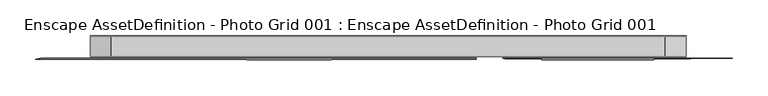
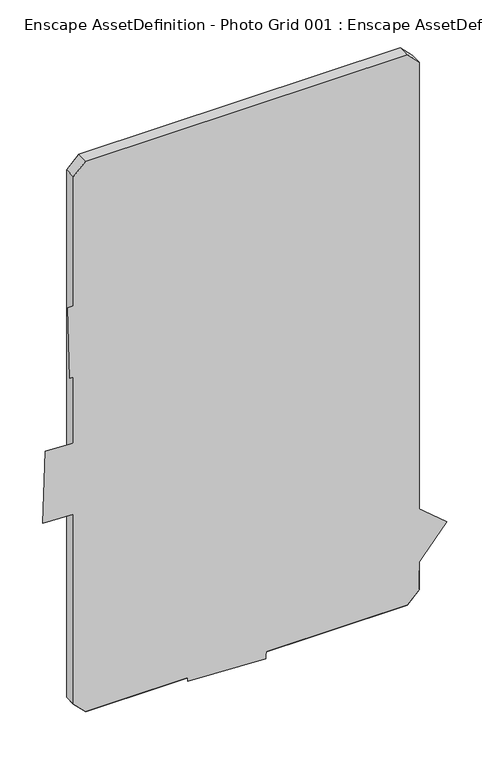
"""IFC4 building model written with IfcOpenShell, lengths in millimetres: geographic element geometry, Enscape AssetDefinition - Photo Grid 001 : Enscape AssetDefinition - Photo Grid 001."""

from ifc_helpers import new_model, si_unit, origin, place, context, project, spatial, triangles, source, transform, mapped, element, save


def enscape_assetdefinition_photo_grid_001_enscape_fef57153(model_context):
    return source(origin(), model_context, "Body", "Tessellation", [
        triangles([(483.1650939, -31.0606223, -515.9774443), (224.4908576, -31.9376695, -532.0733731), (350.6342299, -31.0606223, 522.7969045), (166.6820679, -31.9376695, 340.2241822), (-76.1468555, -31.0606223, 171.2104979), (-192.6188205, -32.6452753, -153.6743045), (373.8181346, -33.2526464, -275.8106903), (218.9135636, -31.0606223, 172.7629286), (126.98341, -31.0606223, 343.3708288), (-66.2845351, -31.9376695, 170.6890363), (-139.3993037, -31.0606223, 519.5858723), (-329.2986863, -31.9376695, 343.2073577), (-238.1178965, -31.0606223, 348.4982775), (-421.1751277, -31.9376695, 165.029389), (-292.3922726, -31.0606223, -8.1631089), (-486.5026445, -31.9376695, -179.8974313), (57.3780293, -31.0606223, -532.5064862), (-138.1487714, -31.9364772, -702.6252085), (125.8247689, -31.0606223, -177.6565071), (-60.5139162, -31.9364772, -357.7949847), (-165.3563494, -31.0606223, -355.0349788), (-359.4667577, -31.9364772, -526.7704628), (-352.4670759, -31.0606223, -347.7214717), (-172.356013, -31.9364772, -534.0840062), (126.7375947, -31.9364772, -356.8403918), (-61.4267648, -31.0606223, -178.6111), (48.895126, -31.9364772, -711.4910917), (-129.664669, -31.0606223, -523.6405666), (-299.3919362, -31.9376695, -187.2121556), (-479.5029991, -31.0606223, -0.8484096), (-233.9725282, -31.9376695, 169.3609378), (-425.3205142, -31.0606223, 344.1667468), (-142.0662467, -31.9376695, 340.4198825), (-326.6317343, -31.0606223, 522.3721484), (120.8596014, -31.9376695, 164.2895722), (-60.1607129, -31.0606223, 349.7690938), (218.0913936, -33.2526464, -275.3978158), (374.6402501, -31.0606223, 172.3500722), (-193.6032626, -31.0606223, 170.3036129), (-75.1624089, -32.6452753, -152.7674194), (353.9037251, -31.9376695, 343.6417062), (163.4113192, -31.0606223, 519.3794168), (340.095302, -31.0606223, -395.1679942), (367.5606314, -31.9364772, -652.8828232), (-410.6517511, -28.559544, 670.8282394), (-410.6517511, 0.1014273, 670.8152315), (-381.481257, -28.559544, 700.0000053), (-381.481257, 0.1014273, 699.9868521), (390.0011221, 0.1014273, 699.9868521), (419.1728517, 0.1014273, 670.8152315), (390.0011221, -28.559544, 700.0000053), (419.1728517, -28.559544, -667.4334612), (419.1728517, -28.559544, 670.8282394), (419.1728517, 0.1014273, -667.4466145), (-410.6517511, 0.1014273, -667.4466145), (-381.481257, 0.1014273, -696.6170723), (-381.481257, -28.559544, -696.6039917), (390.0011221, -28.559544, -696.6039917), (-410.6517511, -28.559544, -667.4334612), (390.0011221, 0.1014273, -696.6170723)], [[58, 56, 60], [58, 57, 56], [59, 57, 58], [58, 52, 59], [58, 60, 54], [58, 54, 52], [57, 59, 55], [60, 56, 55], [57, 55, 56], [54, 60, 55], [59, 46, 55], [52, 54, 50], [50, 54, 55], [55, 46, 50], [52, 53, 59], [52, 50, 53], [53, 50, 49], [53, 49, 51], [53, 51, 47], [51, 49, 48], [48, 49, 50], [46, 48, 50], [51, 48, 47], [59, 45, 46], [48, 46, 45], [47, 45, 53], [48, 45, 47], [45, 59, 53], [44, 1, 43], [44, 43, 2], [41, 3, 42], [41, 42, 4], [40, 5, 39], [40, 39, 6], [37, 7, 38], [37, 38, 8], [35, 9, 36], [35, 36, 10], [33, 11, 34], [33, 34, 12], [31, 13, 32], [31, 32, 14], [29, 15, 30], [29, 30, 16], [27, 17, 28], [27, 28, 18], [25, 19, 26], [25, 26, 20], [24, 21, 23], [24, 23, 22]], closed=False),
    ])


if __name__ == "__main__":
    model = new_model("IFC4")
    model_context = context("Model", 3, world=origin())
    ifc_project = project(units=[si_unit("LENGTHUNIT", "METRE", prefix="MILLI")], contexts=[model_context])
    site = spatial("IfcSite", under=ifc_project)
    building = spatial("IfcBuilding", under=site)
    placement = place(None, origin())
    enscape_assetdefinition_photo_grid_001_enscape_shape = enscape_assetdefinition_photo_grid_001_enscape_fef57153(model_context)
    element("IfcGeographicElement", 1, ObjectType="Enscape AssetDefinition - Photo Grid 001 : Enscape AssetDefinition - Photo Grid 001", at=placement, inside=building, context=model_context, shape_type="MappedRepresentation", body=[
        mapped(enscape_assetdefinition_photo_grid_001_enscape_shape, transform((0.0, 0.0, 0.0), x_axis=(1.0, 0.0, 0.0), y_axis=(0.0, 1.0, 0.0), z_axis=(0.0, 0.0, 1.0))),
    ])
    save(model, "model.ifc")
